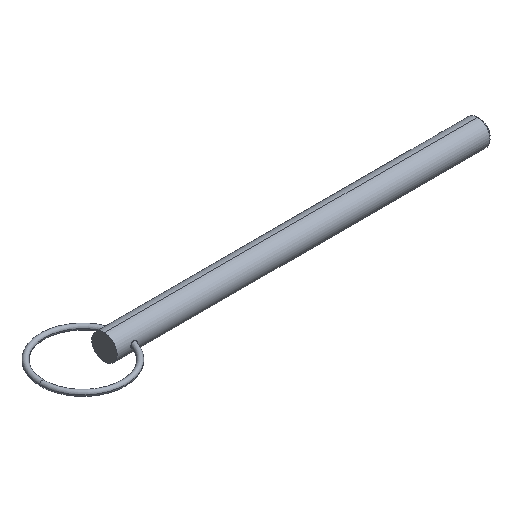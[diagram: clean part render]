
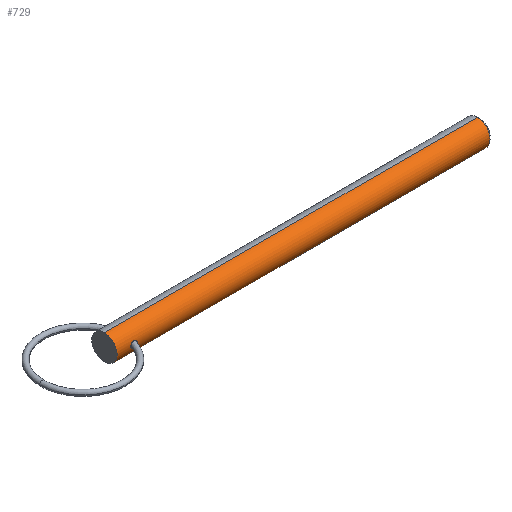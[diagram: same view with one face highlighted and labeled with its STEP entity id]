
A CAD part, isometric view. The second image highlights one B-rep face of the part: STEP entity #729.
In plain terms, the highlighted cylindrical face has radius 3.97 mm (diameter 7.94 mm), a partial arc.
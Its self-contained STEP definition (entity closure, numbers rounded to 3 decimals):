
#5 = CARTESIAN_POINT ( 'NONE',  ( 0., 0., 0. ) ) ;
#6 = CARTESIAN_POINT ( 'NONE',  ( 5.953, -3.888, 0.81 ) ) ;
#8 = EDGE_CURVE ( 'NONE', #639, #365, #68, .T. ) ;
#10 = CARTESIAN_POINT ( 'NONE',  ( 0., 0., 0. ) ) ;
#13 = CARTESIAN_POINT ( 'NONE',  ( 6.145, -3.922, -0.625 ) ) ;
#17 = VECTOR ( 'NONE', #320, 1000. ) ;
#67 = CARTESIAN_POINT ( 'NONE',  ( 116.487, 0., -3.97 ) ) ;
#68 = LINE ( 'NONE', #75, #17 ) ;
#75 = CARTESIAN_POINT ( 'NONE',  ( 0., 0., 3.97 ) ) ;
#79 = VERTEX_POINT ( 'NONE', #550 ) ;
#124 = CARTESIAN_POINT ( 'NONE',  ( 5.838, -3.871, 0.882 ) ) ;
#128 = DIRECTION ( 'NONE',  ( 1., 0., 0. ) ) ;
#131 = CARTESIAN_POINT ( 'NONE',  ( 6.35, -3.97, 0. ) ) ;
#144 = CARTESIAN_POINT ( 'NONE',  ( 5.052, -3.846, -0.984 ) ) ;
#145 = VERTEX_POINT ( 'NONE', #238 ) ;
#151 = ORIENTED_EDGE ( 'NONE', *, *, #496, .T. ) ;
#184 = CARTESIAN_POINT ( 'NONE',  ( 5.952, -3.887, -0.811 ) ) ;
#190 = CARTESIAN_POINT ( 'NONE',  ( 5.838, -3.871, -0.882 ) ) ;
#195 = CARTESIAN_POINT ( 'NONE',  ( 4.806, -3.876, 0.862 ) ) ;
#200 = CARTESIAN_POINT ( 'NONE',  ( 5.054, -3.852, 0.96 ) ) ;
#205 = CYLINDRICAL_SURFACE ( 'NONE', #403, 3.97 ) ;
#210 = ORIENTED_EDGE ( 'NONE', *, *, #740, .T. ) ;
#224 = CARTESIAN_POINT ( 'NONE',  ( 4.492, -3.923, -0.614 ) ) ;
#238 = CARTESIAN_POINT ( 'NONE',  ( 4.26, -3.97, 0. ) ) ;
#251 = CARTESIAN_POINT ( 'NONE',  ( 0., 0., -3.97 ) ) ;
#252 = FACE_OUTER_BOUND ( 'NONE', #612, .T. ) ;
#265 = CARTESIAN_POINT ( 'NONE',  ( 6.35, -3.97, 0. ) ) ;
#268 = CARTESIAN_POINT ( 'NONE',  ( 5.587, -3.849, -0.975 ) ) ;
#276 = CARTESIAN_POINT ( 'NONE',  ( 4.26, -3.97, 0. ) ) ;
#306 = EDGE_CURVE ( 'NONE', #79, #681, #568, .T. ) ;
#309 = CARTESIAN_POINT ( 'NONE',  ( 0., 0., 3.97 ) ) ;
#311 = DIRECTION ( 'NONE',  ( 1., 0., 0. ) ) ;
#314 = CARTESIAN_POINT ( 'NONE',  ( 116.487, 0., 0. ) ) ;
#319 = CARTESIAN_POINT ( 'NONE',  ( 4.69, -3.891, 0.791 ) ) ;
#320 = DIRECTION ( 'NONE',  ( 1., 0., 0. ) ) ;
#327 = CARTESIAN_POINT ( 'NONE',  ( 6.323, -3.963, -0.268 ) ) ;
#350 = B_SPLINE_CURVE_WITH_KNOTS ( 'NONE', 3,
 ( #265, #719, #327, #592, #13, #184, #190, #268, #675, #144, #473, #224, #538, #610, #404, #276 ),
 .UNSPECIFIED., .F., .F.,
 ( 4, 2, 2, 2, 2, 2, 2, 4 ),
 ( 0.004, 0.004, 0.005, 0.005, 0.005, 0.006, 0.007, 0.007 ),
 .UNSPECIFIED. ) ;
#354 = EDGE_LOOP ( 'NONE', ( #477, #210 ) ) ;
#359 = B_SPLINE_CURVE_WITH_KNOTS ( 'NONE', 3,
 ( #700, #576, #519, #780, #460, #319, #195, #200, #638, #766, #647, #124, #6, #450, #394, #455, #710, #131 ),
 .UNSPECIFIED., .F., .F.,
 ( 4, 2, 2, 2, 2, 2, 2, 2, 4 ),
 ( 0.001, 0.001, 0.001, 0.002, 0.002, 0.003, 0.003, 0.003, 0.004 ),
 .UNSPECIFIED. ) ;
#365 = VERTEX_POINT ( 'NONE', #831 ) ;
#371 = AXIS2_PLACEMENT_3D ( 'NONE', #5, #311, #779 ) ;
#392 = ORIENTED_EDGE ( 'NONE', *, *, #8, .F. ) ;
#394 = CARTESIAN_POINT ( 'NONE',  ( 6.221, -3.939, 0.513 ) ) ;
#397 = CARTESIAN_POINT ( 'NONE',  ( 6.35, -3.97, 0. ) ) ;
#403 = AXIS2_PLACEMENT_3D ( 'NONE', #10, #528, #656 ) ;
#404 = CARTESIAN_POINT ( 'NONE',  ( 4.26, -3.97, -0.135 ) ) ;
#419 = ORIENTED_EDGE ( 'NONE', *, *, #306, .T. ) ;
#450 = CARTESIAN_POINT ( 'NONE',  ( 6.145, -3.922, 0.626 ) ) ;
#455 = CARTESIAN_POINT ( 'NONE',  ( 6.323, -3.963, 0.268 ) ) ;
#460 = CARTESIAN_POINT ( 'NONE',  ( 4.492, -3.923, 0.615 ) ) ;
#473 = CARTESIAN_POINT ( 'NONE',  ( 4.787, -3.876, -0.878 ) ) ;
#477 = ORIENTED_EDGE ( 'NONE', *, *, #682, .T. ) ;
#496 = EDGE_CURVE ( 'NONE', #639, #79, #632, .T. ) ;
#519 = CARTESIAN_POINT ( 'NONE',  ( 4.292, -3.963, 0.268 ) ) ;
#528 = DIRECTION ( 'NONE',  ( 1., 0., 0. ) ) ;
#538 = CARTESIAN_POINT ( 'NONE',  ( 4.408, -3.939, -0.507 ) ) ;
#548 = ORIENTED_EDGE ( 'NONE', *, *, #629, .F. ) ;
#550 = CARTESIAN_POINT ( 'NONE',  ( 0., 0., -3.97 ) ) ;
#568 = LINE ( 'NONE', #251, #727 ) ;
#576 = CARTESIAN_POINT ( 'NONE',  ( 4.26, -3.97, 0.135 ) ) ;
#592 = CARTESIAN_POINT ( 'NONE',  ( 6.221, -3.939, -0.513 ) ) ;
#610 = CARTESIAN_POINT ( 'NONE',  ( 4.292, -3.963, -0.267 ) ) ;
#612 = EDGE_LOOP ( 'NONE', ( #392, #151, #419, #548 ) ) ;
#629 = EDGE_CURVE ( 'NONE', #365, #681, #728, .T. ) ;
#632 = CIRCLE ( 'NONE', #371, 3.97 ) ;
#638 = CARTESIAN_POINT ( 'NONE',  ( 5.185, -3.845, 0.988 ) ) ;
#639 = VERTEX_POINT ( 'NONE', #309 ) ;
#643 = FACE_BOUND ( 'NONE', #354, .T. ) ;
#647 = CARTESIAN_POINT ( 'NONE',  ( 5.587, -3.849, 0.975 ) ) ;
#656 = DIRECTION ( 'NONE',  ( 0., 0., -1. ) ) ;
#675 = CARTESIAN_POINT ( 'NONE',  ( 5.452, -3.843, -0.996 ) ) ;
#681 = VERTEX_POINT ( 'NONE', #67 ) ;
#682 = EDGE_CURVE ( 'NONE', #145, #793, #359, .T. ) ;
#687 = AXIS2_PLACEMENT_3D ( 'NONE', #314, #128, #775 ) ;
#700 = CARTESIAN_POINT ( 'NONE',  ( 4.26, -3.97, 0. ) ) ;
#710 = CARTESIAN_POINT ( 'NONE',  ( 6.35, -3.97, 0.133 ) ) ;
#719 = CARTESIAN_POINT ( 'NONE',  ( 6.35, -3.97, -0.133 ) ) ;
#727 = VECTOR ( 'NONE', #765, 1000. ) ;
#728 = CIRCLE ( 'NONE', #687, 3.97 ) ;
#729 = ADVANCED_FACE ( 'NONE', ( #252, #643 ), #205, .T. ) ;
#740 = EDGE_CURVE ( 'NONE', #793, #145, #350, .T. ) ;
#765 = DIRECTION ( 'NONE',  ( 1., 0., 0. ) ) ;
#766 = CARTESIAN_POINT ( 'NONE',  ( 5.454, -3.843, 0.996 ) ) ;
#775 = DIRECTION ( 'NONE',  ( 0., 0., -1. ) ) ;
#779 = DIRECTION ( 'NONE',  ( 0., 0., -1. ) ) ;
#780 = CARTESIAN_POINT ( 'NONE',  ( 4.408, -3.939, 0.508 ) ) ;
#793 = VERTEX_POINT ( 'NONE', #397 ) ;
#831 = CARTESIAN_POINT ( 'NONE',  ( 116.487, 0., 3.97 ) ) ;
